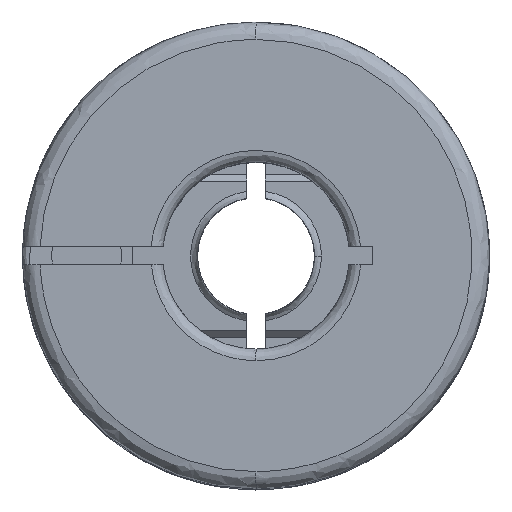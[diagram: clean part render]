
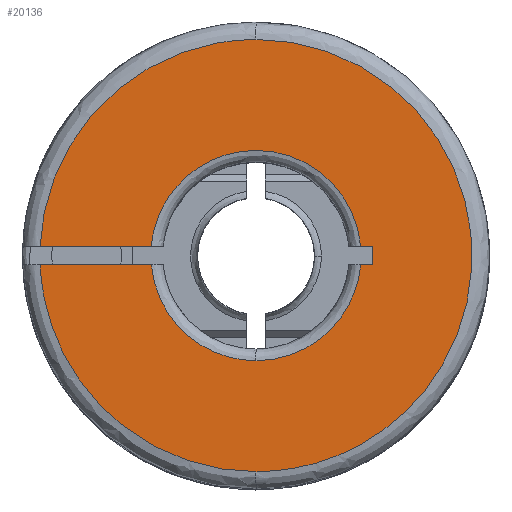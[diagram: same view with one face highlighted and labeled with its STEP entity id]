
A CAD part, top view. The second image highlights one B-rep face of the part: STEP entity #20136.
In plain terms, the highlighted planar face has unit normal (0, 0, 1).
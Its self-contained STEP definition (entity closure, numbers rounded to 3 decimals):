
#1648 = VERTEX_POINT ( 'NONE', #23537 ) ;
#2665 = VERTEX_POINT ( 'NONE', #23558 ) ;
#7103 = VERTEX_POINT ( 'NONE', #14811 ) ;
#7105 = EDGE_CURVE ( 'NONE', #7103, #1648, #14871, .T. ) ;
#7198 = VERTEX_POINT ( 'NONE', #15126 ) ;
#7200 = EDGE_CURVE ( 'NONE', #7198, #7103, #15118, .T. ) ;
#7212 = VERTEX_POINT ( 'NONE', #15149 ) ;
#7222 = EDGE_CURVE ( 'NONE', #7212, #7198, #15131, .T. ) ;
#7270 = VERTEX_POINT ( 'NONE', #15246 ) ;
#7276 = EDGE_CURVE ( 'NONE', #7327, #7270, #15235, .T. ) ;
#7295 = VERTEX_POINT ( 'NONE', #15309 ) ;
#7297 = EDGE_CURVE ( 'NONE', #7212, #7295, #15308, .T. ) ;
#7326 = EDGE_CURVE ( 'NONE', #1648, #7327, #15338, .T. ) ;
#7327 = VERTEX_POINT ( 'NONE', #15340 ) ;
#11008 = CARTESIAN_POINT ( 'NONE',  ( -3.361, 1.595, 16.552 ) ) ;
#11064 = CARTESIAN_POINT ( 'NONE',  ( 1.121, -2.505, 16.552 ) ) ;
#11065 = CARTESIAN_POINT ( 'NONE',  ( -1.331, -2.505, 16.552 ) ) ;
#11066 = CARTESIAN_POINT ( 'NONE',  ( -3.143, -0.85, 16.552 ) ) ;
#11067 = CARTESIAN_POINT ( 'NONE',  ( -3.361, 1.595, 16.552 ) ) ;
#11068 =( BOUNDED_CURVE ( )  B_SPLINE_CURVE ( 3, ( #11067, #11066, #11065, #11064 ),
 .UNSPECIFIED., .F., .T. ) 
 B_SPLINE_CURVE_WITH_KNOTS ( ( 4, 4 ),
 ( 0., 1. ),
 .UNSPECIFIED. ) 
 CURVE ( )  GEOMETRIC_REPRESENTATION_ITEM ( )  RATIONAL_B_SPLINE_CURVE ( ( 0.953, 0.787, 0.789, 0.957 ) ) 
 REPRESENTATION_ITEM ( '' )  );
#11288 = DIRECTION ( 'NONE',  ( -1., 0., 0. ) ) ;
#11289 = VECTOR ( 'NONE', #11288, 1000. ) ;
#11290 = CARTESIAN_POINT ( 'NONE',  ( -5.865, 1.595, 16.552 ) ) ;
#11291 = LINE ( 'NONE', #11290, #11289 ) ;
#11300 = CARTESIAN_POINT ( 'NONE',  ( -8.121, 1.595, 16.552 ) ) ;
#11847 = CARTESIAN_POINT ( 'NONE',  ( 3.573, -2.505, 16.552 ) ) ;
#11848 = CARTESIAN_POINT ( 'NONE',  ( 1.121, -2.505, 16.552 ) ) ;
#11849 =( BOUNDED_CURVE ( )  B_SPLINE_CURVE ( 3, ( #11848, #11847, #11893, #11892 ),
 .UNSPECIFIED., .F., .T. ) 
 B_SPLINE_CURVE_WITH_KNOTS ( ( 4, 4 ),
 ( 0., 1. ),
 .UNSPECIFIED. ) 
 CURVE ( )  GEOMETRIC_REPRESENTATION_ITEM ( )  RATIONAL_B_SPLINE_CURVE ( ( 0.957, 0.789, 0.787, 0.953 ) ) 
 REPRESENTATION_ITEM ( '' )  );
#11892 = CARTESIAN_POINT ( 'NONE',  ( 5.603, 1.595, 16.552 ) ) ;
#11893 = CARTESIAN_POINT ( 'NONE',  ( 5.385, -0.85, 16.552 ) ) ;
#11928 = CARTESIAN_POINT ( 'NONE',  ( 5.603, 1.595, 16.552 ) ) ;
#11929 = CARTESIAN_POINT ( 'NONE',  ( -8.121, 1.595, 16.552 ) ) ;
#11930 = CARTESIAN_POINT ( 'NONE',  ( -7.894, -3.64, 16.552 ) ) ;
#11931 = CARTESIAN_POINT ( 'NONE',  ( -4.108, -7.255, 16.552 ) ) ;
#11932 = CARTESIAN_POINT ( 'NONE',  ( 1.121, -7.255, 16.552 ) ) ;
#11933 =( BOUNDED_CURVE ( )  B_SPLINE_CURVE ( 3, ( #11932, #11931, #11930, #11929 ),
 .UNSPECIFIED., .F., .T. ) 
 B_SPLINE_CURVE_WITH_KNOTS ( ( 4, 4 ),
 ( 0., 1. ),
 .UNSPECIFIED. ) 
 CURVE ( )  GEOMETRIC_REPRESENTATION_ITEM ( )  RATIONAL_B_SPLINE_CURVE ( ( 0.957, 0.778, 0.777, 0.952 ) ) 
 REPRESENTATION_ITEM ( '' )  );
#11934 = DIRECTION ( 'NONE',  ( 0., -1., 0. ) ) ;
#11935 = DIRECTION ( 'NONE',  ( 0., 0., -1. ) ) ;
#11936 = CARTESIAN_POINT ( 'NONE',  ( 10.482, 11.356, 16.552 ) ) ;
#11937 = AXIS2_PLACEMENT_3D ( 'NONE', #11936, #11935, #11934 ) ;
#11938 = PLANE ( 'NONE',  #11937 ) ;
#11939 = FACE_OUTER_BOUND ( 'NONE', #20137, .T. ) ;
#11960 = DIRECTION ( 'NONE',  ( 1., 0., 0. ) ) ;
#11961 = VECTOR ( 'NONE', #11960, 1000. ) ;
#11962 = CARTESIAN_POINT ( 'NONE',  ( 1.125, 1.595, 16.552 ) ) ;
#11963 = LINE ( 'NONE', #11962, #11961 ) ;
#14811 = CARTESIAN_POINT ( 'NONE',  ( -3.361, 2.395, 16.552 ) ) ;
#14868 = DIRECTION ( 'NONE',  ( -1., 0., 0. ) ) ;
#14869 = VECTOR ( 'NONE', #14868, 1000. ) ;
#14870 = CARTESIAN_POINT ( 'NONE',  ( 1.125, 2.395, 16.552 ) ) ;
#14871 = LINE ( 'NONE', #14870, #14869 ) ;
#15114 = CARTESIAN_POINT ( 'NONE',  ( -3.361, 2.395, 16.552 ) ) ;
#15115 = CARTESIAN_POINT ( 'NONE',  ( -2.685, 9.977, 16.552 ) ) ;
#15116 = CARTESIAN_POINT ( 'NONE',  ( 4.926, 9.977, 16.552 ) ) ;
#15117 = CARTESIAN_POINT ( 'NONE',  ( 5.603, 2.395, 16.552 ) ) ;
#15118 =( BOUNDED_CURVE ( )  B_SPLINE_CURVE ( 3, ( #15117, #15116, #15115, #15114 ),
 .UNSPECIFIED., .F., .F. ) 
 B_SPLINE_CURVE_WITH_KNOTS ( ( 4, 4 ),
 ( 0., 1. ),
 .UNSPECIFIED. ) 
 CURVE ( )  GEOMETRIC_REPRESENTATION_ITEM ( )  RATIONAL_B_SPLINE_CURVE ( ( 0.941, 0.369, 0.369, 0.941 ) ) 
 REPRESENTATION_ITEM ( '' )  );
#15126 = CARTESIAN_POINT ( 'NONE',  ( 5.603, 2.395, 16.552 ) ) ;
#15128 = DIRECTION ( 'NONE',  ( -1., 0., 0. ) ) ;
#15129 = VECTOR ( 'NONE', #15128, 1000. ) ;
#15130 = CARTESIAN_POINT ( 'NONE',  ( 1.125, 2.395, 16.552 ) ) ;
#15131 = LINE ( 'NONE', #15130, #15129 ) ;
#15149 = CARTESIAN_POINT ( 'NONE',  ( 6.121, 2.395, 16.552 ) ) ;
#15235 =( BOUNDED_CURVE ( )  B_SPLINE_CURVE ( 3, ( #15287, #15286, #15285, #15284 ),
 .UNSPECIFIED., .F., .F. ) 
 B_SPLINE_CURVE_WITH_KNOTS ( ( 4, 4 ),
 ( 0., 1. ),
 .UNSPECIFIED. ) 
 CURVE ( )  GEOMETRIC_REPRESENTATION_ITEM ( )  RATIONAL_B_SPLINE_CURVE ( ( 0.957, 0.319, 0.319, 0.957 ) ) 
 REPRESENTATION_ITEM ( '' )  );
#15246 = CARTESIAN_POINT ( 'NONE',  ( 1.121, -7.255, 16.552 ) ) ;
#15284 = CARTESIAN_POINT ( 'NONE',  ( 1.121, -7.255, 16.552 ) ) ;
#15285 = CARTESIAN_POINT ( 'NONE',  ( 19.621, -7.255, 16.552 ) ) ;
#15286 = CARTESIAN_POINT ( 'NONE',  ( 19.621, 11.245, 16.552 ) ) ;
#15287 = CARTESIAN_POINT ( 'NONE',  ( 1.121, 11.245, 16.552 ) ) ;
#15305 = DIRECTION ( 'NONE',  ( 0., -1., 0. ) ) ;
#15306 = VECTOR ( 'NONE', #15305, 1000. ) ;
#15307 = CARTESIAN_POINT ( 'NONE',  ( 6.121, 1.995, 16.552 ) ) ;
#15308 = LINE ( 'NONE', #15307, #15306 ) ;
#15309 = CARTESIAN_POINT ( 'NONE',  ( 6.121, 1.595, 16.552 ) ) ;
#15336 = CARTESIAN_POINT ( 'NONE',  ( -7.894, 7.63, 16.552 ) ) ;
#15337 = CARTESIAN_POINT ( 'NONE',  ( -8.121, 2.395, 16.552 ) ) ;
#15338 =( BOUNDED_CURVE ( )  B_SPLINE_CURVE ( 3, ( #15337, #15336, #15385, #15384 ),
 .UNSPECIFIED., .F., .T. ) 
 B_SPLINE_CURVE_WITH_KNOTS ( ( 4, 4 ),
 ( 0., 1. ),
 .UNSPECIFIED. ) 
 CURVE ( )  GEOMETRIC_REPRESENTATION_ITEM ( )  RATIONAL_B_SPLINE_CURVE ( ( 0.952, 0.777, 0.778, 0.957 ) ) 
 REPRESENTATION_ITEM ( '' )  );
#15340 = CARTESIAN_POINT ( 'NONE',  ( 1.121, 11.245, 16.552 ) ) ;
#15384 = CARTESIAN_POINT ( 'NONE',  ( 1.121, 11.245, 16.552 ) ) ;
#15385 = CARTESIAN_POINT ( 'NONE',  ( -4.108, 11.245, 16.552 ) ) ;
#19950 = VERTEX_POINT ( 'NONE', #11008 ) ;
#19952 = EDGE_CURVE ( 'NONE', #19950, #2665, #11068, .T. ) ;
#19986 = VERTEX_POINT ( 'NONE', #11300 ) ;
#19989 = EDGE_CURVE ( 'NONE', #19950, #19986, #11291, .T. ) ;
#20081 = ORIENTED_EDGE ( 'NONE', *, *, #7200, .F. ) ;
#20082 = ORIENTED_EDGE ( 'NONE', *, *, #7105, .F. ) ;
#20083 = ORIENTED_EDGE ( 'NONE', *, *, #7326, .F. ) ;
#20102 = EDGE_CURVE ( 'NONE', #2665, #20145, #11849, .T. ) ;
#20103 = ORIENTED_EDGE ( 'NONE', *, *, #19952, .F. ) ;
#20104 = ORIENTED_EDGE ( 'NONE', *, *, #20102, .F. ) ;
#20134 = ORIENTED_EDGE ( 'NONE', *, *, #7276, .F. ) ;
#20135 = ORIENTED_EDGE ( 'NONE', *, *, #20139, .F. ) ;
#20136 = ADVANCED_FACE ( 'NONE', ( #11939 ), #11938, .F. ) ;
#20137 = EDGE_LOOP ( 'NONE', ( #20135, #20134, #20083, #20082, #20081, #20148, #20149, #20146, #20104, #20103, #20153 ) ) ;
#20139 = EDGE_CURVE ( 'NONE', #7270, #19986, #11933, .T. ) ;
#20145 = VERTEX_POINT ( 'NONE', #11928 ) ;
#20146 = ORIENTED_EDGE ( 'NONE', *, *, #20147, .F. ) ;
#20147 = EDGE_CURVE ( 'NONE', #20145, #7295, #11963, .T. ) ;
#20148 = ORIENTED_EDGE ( 'NONE', *, *, #7222, .F. ) ;
#20149 = ORIENTED_EDGE ( 'NONE', *, *, #7297, .T. ) ;
#20153 = ORIENTED_EDGE ( 'NONE', *, *, #19989, .T. ) ;
#23537 = CARTESIAN_POINT ( 'NONE',  ( -8.121, 2.395, 16.552 ) ) ;
#23558 = CARTESIAN_POINT ( 'NONE',  ( 1.121, -2.505, 16.552 ) ) ;
